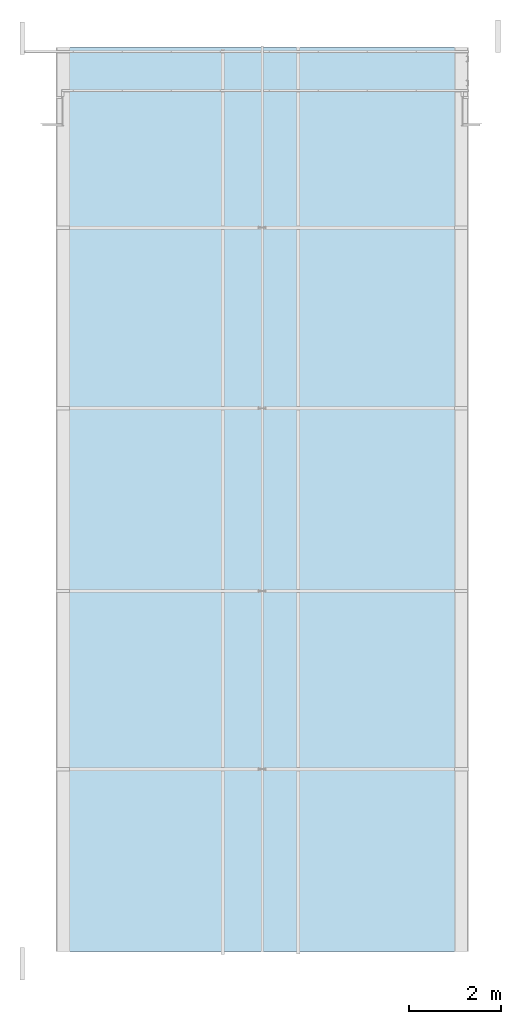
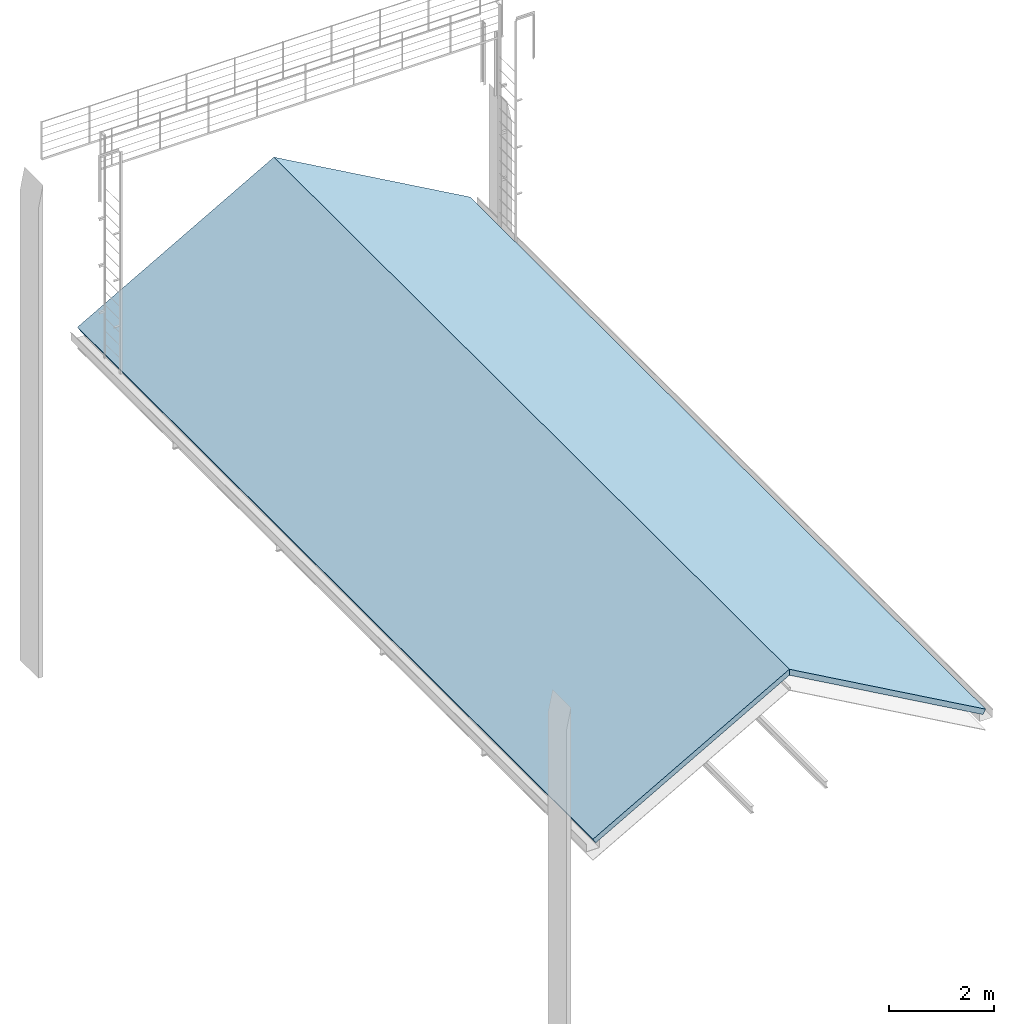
# One storey, part 7 of 10: 2 roofs.
"""IFC2X3 building model written with IfcOpenShell, lengths in metres."""

from ifc_helpers import new_model, entity, si_unit, converted_unit, derived_unit, direction, frame, origin, place, context, subcontext, project, spatial, faceted_brep, material, layer, layer_set, element, save


model = new_model("IFC2X3")

# Units and contexts
model_context = context("Model", 3, precision=1e-05, world=origin(), true_north=direction((6.12303176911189e-17, 1.0)))
body_context = subcontext(model_context, "Body", "Model", "MODEL_VIEW")
ifc_project = project(units=[si_unit("LENGTHUNIT", "METRE"), si_unit("AREAUNIT", "SQUARE_METRE"), si_unit("VOLUMEUNIT", "CUBIC_METRE"), converted_unit("PLANEANGLEUNIT", "DEGREE", entity("IfcRatioMeasure", 0.0174532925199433), si_unit("PLANEANGLEUNIT", "RADIAN"), dimensions=[0, 0, 0, 0, 0, 0, 0]), si_unit("MASSUNIT", "GRAM", prefix="KILO"), derived_unit("MASSDENSITYUNIT", [(si_unit("MASSUNIT", "GRAM", prefix="KILO"), 1), (si_unit("LENGTHUNIT", "METRE"), -3)]), derived_unit("MOMENTOFINERTIAUNIT", [(si_unit("LENGTHUNIT", "METRE"), 4)]), si_unit("TIMEUNIT", "SECOND"), si_unit("FREQUENCYUNIT", "HERTZ"), si_unit("THERMODYNAMICTEMPERATUREUNIT", "DEGREE_CELSIUS"), derived_unit("THERMALTRANSMITTANCEUNIT", [(si_unit("MASSUNIT", "GRAM", prefix="KILO"), 1), (si_unit("THERMODYNAMICTEMPERATUREUNIT", "KELVIN"), -1), (si_unit("TIMEUNIT", "SECOND"), -3)]), derived_unit("VOLUMETRICFLOWRATEUNIT", [(si_unit("LENGTHUNIT", "METRE"), 3), (si_unit("TIMEUNIT", "SECOND"), -1)]), si_unit("ELECTRICCURRENTUNIT", "AMPERE"), si_unit("ELECTRICVOLTAGEUNIT", "VOLT"), si_unit("POWERUNIT", "WATT"), si_unit("FORCEUNIT", "NEWTON", prefix="KILO"), si_unit("ILLUMINANCEUNIT", "LUX"), si_unit("LUMINOUSFLUXUNIT", "LUMEN"), si_unit("LUMINOUSINTENSITYUNIT", "CANDELA"), derived_unit("USERDEFINED", [(si_unit("MASSUNIT", "GRAM", prefix="KILO"), -1), (si_unit("LENGTHUNIT", "METRE"), -2), (si_unit("TIMEUNIT", "SECOND"), 3), (si_unit("LUMINOUSFLUXUNIT", "LUMEN"), 1)]), derived_unit("LINEARVELOCITYUNIT", [(si_unit("LENGTHUNIT", "METRE"), 1), (si_unit("TIMEUNIT", "SECOND"), -1)]), si_unit("PRESSUREUNIT", "PASCAL"), derived_unit("USERDEFINED", [(si_unit("LENGTHUNIT", "METRE"), -2), (si_unit("MASSUNIT", "GRAM", prefix="KILO"), 1), (si_unit("TIMEUNIT", "SECOND"), -2)]), derived_unit("LINEARFORCEUNIT", [(si_unit("MASSUNIT", "GRAM", prefix="KILO"), 1), (si_unit("LENGTHUNIT", "METRE"), 1), (si_unit("TIMEUNIT", "SECOND"), -2), (si_unit("LENGTHUNIT", "METRE"), -1)]), derived_unit("PLANARFORCEUNIT", [(si_unit("MASSUNIT", "GRAM", prefix="KILO"), 1), (si_unit("LENGTHUNIT", "METRE"), 1), (si_unit("TIMEUNIT", "SECOND"), -2), (si_unit("LENGTHUNIT", "METRE"), -2)])], contexts=[model_context])

# Site, building, storey
site_placement = place(None, origin())
site = spatial("IfcSite", under=ifc_project, at=site_placement, Name="Superficie", CompositionType="ELEMENT")
building_placement = place(site_placement, origin())
building = spatial("IfcBuilding", under=site, at=building_placement, Name="Telegestiones", CompositionType="ELEMENT")
storey_placement = place(building_placement, frame((0.0, 0.0, 13.23)))
storey = spatial("IfcBuildingStorey", under=building, at=storey_placement, Name="Nivel 3_SUP", CompositionType="ELEMENT", Elevation=13.23)

# Roofs
ifc_material_1 = material(Name="Plástico, blanco opaco")
ifc_layer_1 = layer(ifc_material_1, 0.01)
ifc_material_2 = material(Name="EIFS, aislamiento exterior")
ifc_layer_2 = layer(ifc_material_2, 0.1)
ifc_layer_3 = layer(ifc_material_1, 0.01)
ifc_layer_set = layer_set([ifc_layer_1, ifc_layer_2, ifc_layer_3], Name="Cubierta básica:ARQ-CU-EX-12-Iso")
roof_1_placement = place(storey_placement, frame((10.4934838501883, -5.80636712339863, 0.299851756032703)))
element("IfcRoof", 1, at=roof_1_placement, inside=storey, material=ifc_layer_set, Name="Cubierta básica:ARQ-CU-EX-12-Iso", ObjectType="Cubierta básica:ARQ-CU-EX-12-Iso", ShapeType="NOTDEFINED", context=body_context, shape_type="Brep", body=[
    faceted_brep([(4.24097034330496, 19.5499743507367, 0.0), (0.0, 19.5499743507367, 2.3961482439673), (0.0, 19.5499743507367, 2.53397726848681), (4.30000000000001, 19.5499743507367, 0.10447726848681), (0.0, 0.0, 2.3961482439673), (0.0, 0.0, 2.53397726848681), (4.24097034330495, 0.0, 0.0), (4.3, 0.0, 0.104477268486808)], [[[0, 1, 2, 3]], [[1, 4, 5, 2]], [[4, 6, 7, 5]], [[1, 0, 6, 4]], [[3, 2, 5, 7]], [[6, 0, 3, 7]]]),
])
roof_2_placement = place(storey_placement, frame((6.19348373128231, -5.80636712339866, 0.299851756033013)))
element("IfcRoof", 2, at=roof_2_placement, inside=storey, material=ifc_layer_set, Name="Cubierta básica:ARQ-CU-EX-12-Iso", ObjectType="Cubierta básica:ARQ-CU-EX-12-Iso", ShapeType="NOTDEFINED", context=body_context, shape_type="Brep", body=[
    faceted_brep([(4.30000000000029, 19.5499743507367, 2.39614824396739), (0.0590296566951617, 19.5499743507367, 0.0), (0.0, 19.5499743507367, 0.104477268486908), (4.30000000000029, 19.5499743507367, 2.5339772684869), (4.30000000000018, 0.0, 2.39614824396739), (4.30000000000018, 0.0, 2.5339772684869), (0.0590296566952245, 0.0, 0.0), (0.0, 0.0, 0.10447726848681)], [[[0, 1, 2, 3]], [[4, 0, 3, 5]], [[6, 4, 5, 7]], [[1, 0, 4, 6]], [[3, 2, 7, 5]], [[1, 6, 7, 2]]]),
])

save(model, "model.ifc")
